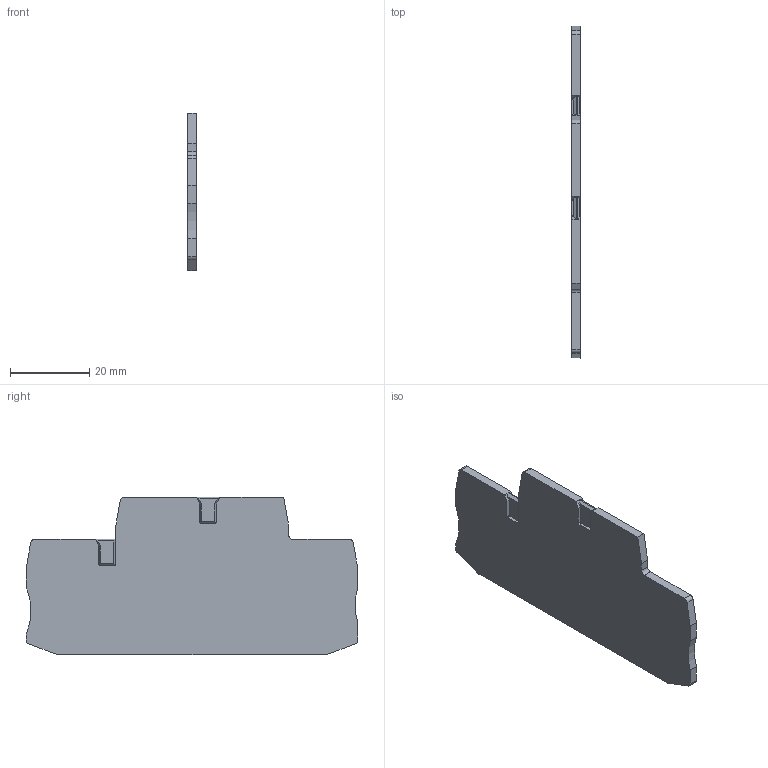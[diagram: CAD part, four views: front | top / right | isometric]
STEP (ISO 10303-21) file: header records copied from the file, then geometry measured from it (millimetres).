
FILE_DESCRIPTION( ('This file contains a STEP AP42 implementation' ,'as created by ZW3D STEP Interface translator.') ,'2;1' );
FILE_NAME( 'D-RPVTT4.stp' ,'23 6 9. 83536', (''), ('ZWCAD Software Co.'), 'Version 1.0', 'ZW3D to STEP translator', '' );
FILE_SCHEMA(('AUTOMOTIVE_DESIGN { 1 0 10303 214 1 1 1 1 }'));
Length unit declared in the file: millimetre
Products named in the file (2): 0; RNSTB_4
Bounding box: 2.2 x 83.65 x 39.65 mm (x, y, z)
Volume: 6188 mm3; surface area: 6262 mm2
Topology: 1 solids, 1 shells, 81 faces, 223 edges, 144 vertices
Faces by surface type: plane 60, cylinder 21
Entity records: 2718 total; most frequent: CARTESIAN_POINT 549, ORIENTED_EDGE 446, DIRECTION 405, EDGE_CURVE 223, VECTOR 173, LINE 173, VERTEX_POINT 144, AXIS2_PLACEMENT_3D 116
